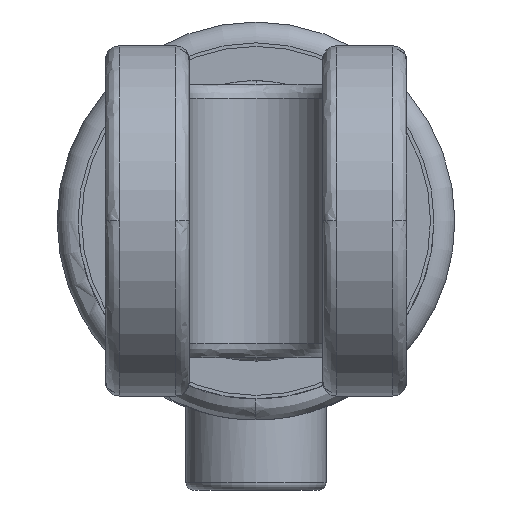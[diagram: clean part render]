
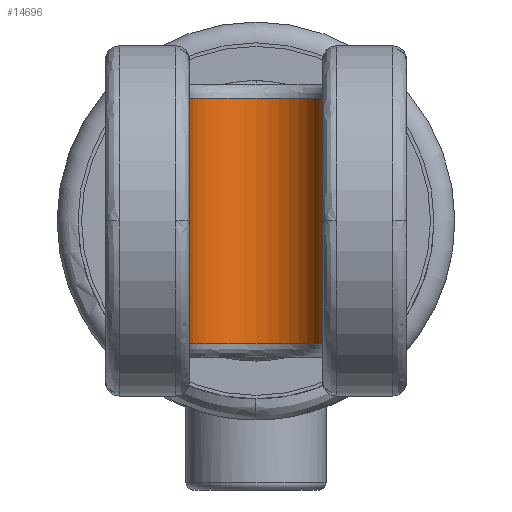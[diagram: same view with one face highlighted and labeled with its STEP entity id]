
A CAD part, left-side view. The second image highlights one B-rep face of the part: STEP entity #14696.
In plain terms, the highlighted cylindrical face has radius 9.5 mm (diameter 19 mm), a partial arc.
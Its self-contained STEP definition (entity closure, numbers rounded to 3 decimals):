
#666 = CARTESIAN_POINT ( 'NONE',  ( 0.293, 1.554, -19.5 ) ) ;
#1474 = DIRECTION ( 'NONE',  ( 1., 0., 0. ) ) ;
#1752 = EDGE_LOOP ( 'NONE', ( #18904, #9295, #17495, #11180 ) ) ;
#2543 = VECTOR ( 'NONE', #11508, 1000. ) ;
#3014 = CIRCLE ( 'NONE', #18187, 9.5 ) ;
#3084 = CARTESIAN_POINT ( 'NONE',  ( 0.293, 1.554, 17.5 ) ) ;
#3360 = CYLINDRICAL_SURFACE ( 'NONE', #19955, 9.5 ) ;
#4705 = CARTESIAN_POINT ( 'NONE',  ( 0.293, 1.554, -17.5 ) ) ;
#6665 = DIRECTION ( 'NONE',  ( 0., 0., -1. ) ) ;
#6762 = CIRCLE ( 'NONE', #12452, 9.5 ) ;
#7703 = VERTEX_POINT ( 'NONE', #19737 ) ;
#8424 = LINE ( 'NONE', #15184, #9000 ) ;
#9000 = VECTOR ( 'NONE', #17027, 1000. ) ;
#9080 = VERTEX_POINT ( 'NONE', #3084 ) ;
#9295 = ORIENTED_EDGE ( 'NONE', *, *, #16162, .F. ) ;
#10248 = EDGE_CURVE ( 'NONE', #9080, #18239, #12244, .T. ) ;
#11180 = ORIENTED_EDGE ( 'NONE', *, *, #22879, .F. ) ;
#11508 = DIRECTION ( 'NONE',  ( 0., 0., -1. ) ) ;
#12244 = LINE ( 'NONE', #666, #2543 ) ;
#12395 = DIRECTION ( 'NONE',  ( 0., 0., 1. ) ) ;
#12452 = AXIS2_PLACEMENT_3D ( 'NONE', #23404, #12395, #1474 ) ;
#12500 = DIRECTION ( 'NONE',  ( 1., 0., 0. ) ) ;
#14696 = ADVANCED_FACE ( 'NONE', ( #22815 ), #3360, .F. ) ;
#15184 = CARTESIAN_POINT ( 'NONE',  ( 0.293, -17.446, -19.5 ) ) ;
#16162 = EDGE_CURVE ( 'NONE', #18239, #22668, #6762, .T. ) ;
#17027 = DIRECTION ( 'NONE',  ( 0., 0., 1. ) ) ;
#17495 = ORIENTED_EDGE ( 'NONE', *, *, #10248, .F. ) ;
#17625 = CARTESIAN_POINT ( 'NONE',  ( 0.293, -7.946, 17.5 ) ) ;
#18187 = AXIS2_PLACEMENT_3D ( 'NONE', #17625, #6665, #19465 ) ;
#18239 = VERTEX_POINT ( 'NONE', #4705 ) ;
#18904 = ORIENTED_EDGE ( 'NONE', *, *, #19864, .F. ) ;
#19218 = CARTESIAN_POINT ( 'NONE',  ( 0.293, -17.446, -17.5 ) ) ;
#19465 = DIRECTION ( 'NONE',  ( 1., 0., 0. ) ) ;
#19737 = CARTESIAN_POINT ( 'NONE',  ( 0.293, -17.446, 17.5 ) ) ;
#19864 = EDGE_CURVE ( 'NONE', #22668, #7703, #8424, .T. ) ;
#19955 = AXIS2_PLACEMENT_3D ( 'NONE', #23515, #23361, #12500 ) ;
#22668 = VERTEX_POINT ( 'NONE', #19218 ) ;
#22815 = FACE_OUTER_BOUND ( 'NONE', #1752, .T. ) ;
#22879 = EDGE_CURVE ( 'NONE', #7703, #9080, #3014, .T. ) ;
#23361 = DIRECTION ( 'NONE',  ( 0., 0., 1. ) ) ;
#23404 = CARTESIAN_POINT ( 'NONE',  ( 0.293, -7.946, -17.5 ) ) ;
#23515 = CARTESIAN_POINT ( 'NONE',  ( 0.293, -7.946, -19.5 ) ) ;
